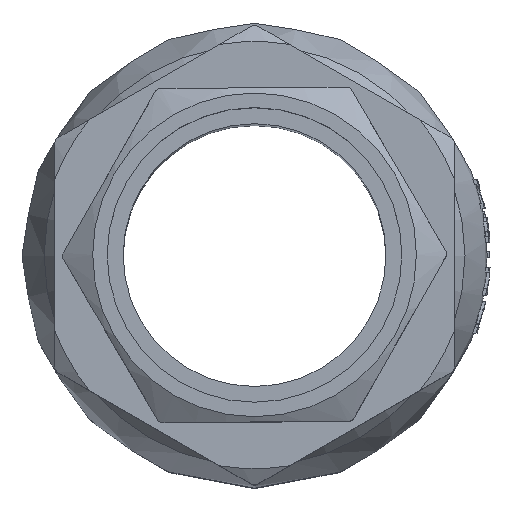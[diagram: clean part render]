
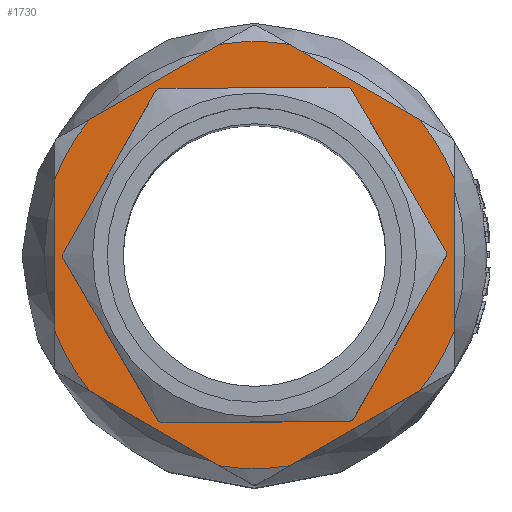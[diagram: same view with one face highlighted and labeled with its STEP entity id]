
A CAD part, top view. The second image highlights one B-rep face of the part: STEP entity #1730.
In plain terms, the highlighted planar face has unit normal (0, 0, 1).
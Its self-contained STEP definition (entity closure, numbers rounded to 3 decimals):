
#1730=ADVANCED_FACE('',(#4472,#4474),#4476,.T.);
#4472=FACE_BOUND('',#4473,.T.);
#4473=EDGE_LOOP('',(#5637,#5638,#5639,#5640,#5641,#5642,#5643,#5644,#5645,#5646,
#5647,#5648));
#4474=FACE_BOUND('',#4475,.T.);
#4475=EDGE_LOOP('',(#5649,#5650,#5651,#5652,#5653,#5654,#5655,#5656,#5657,#5658,
#5659,#5660));
#4476=PLANE('',#4477);
#4477=AXIS2_PLACEMENT_3D('',#4478,#4479,#4480);
#4478=CARTESIAN_POINT('',(0.,25.423,82.));
#4479=DIRECTION('',(0.,0.,1.));
#4480=DIRECTION('',(1.,0.,0.));
#5637=ORIENTED_EDGE('',*,*,#6226,.T.);
#5638=ORIENTED_EDGE('',*,*,#6209,.T.);
#5639=ORIENTED_EDGE('',*,*,#6215,.T.);
#5640=ORIENTED_EDGE('',*,*,#6197,.T.);
#5641=ORIENTED_EDGE('',*,*,#6204,.T.);
#5642=ORIENTED_EDGE('',*,*,#6308,.T.);
#5643=ORIENTED_EDGE('',*,*,#6184,.T.);
#5644=ORIENTED_EDGE('',*,*,#6191,.T.);
#5645=ORIENTED_EDGE('',*,*,#6240,.T.);
#5646=ORIENTED_EDGE('',*,*,#6231,.T.);
#5647=ORIENTED_EDGE('',*,*,#6237,.T.);
#5648=ORIENTED_EDGE('',*,*,#6220,.T.);
#5649=ORIENTED_EDGE('',*,*,#6277,.T.);
#5650=ORIENTED_EDGE('',*,*,#6260,.F.);
#5651=ORIENTED_EDGE('',*,*,#6258,.T.);
#5652=ORIENTED_EDGE('',*,*,#6243,.F.);
#5653=ORIENTED_EDGE('',*,*,#6309,.T.);
#5654=ORIENTED_EDGE('',*,*,#6263,.F.);
#5655=ORIENTED_EDGE('',*,*,#6266,.T.);
#5656=ORIENTED_EDGE('',*,*,#6268,.F.);
#5657=ORIENTED_EDGE('',*,*,#6270,.T.);
#5658=ORIENTED_EDGE('',*,*,#6272,.F.);
#5659=ORIENTED_EDGE('',*,*,#6274,.T.);
#5660=ORIENTED_EDGE('',*,*,#6276,.F.);
#6184=EDGE_CURVE('',#6993,#6991,#6994,.T.);
#6191=EDGE_CURVE('',#6991,#7004,#7006,.T.);
#6197=EDGE_CURVE('',#7017,#7015,#7018,.T.);
#6204=EDGE_CURVE('',#7015,#7028,#7030,.T.);
#6209=EDGE_CURVE('',#7038,#7036,#7039,.T.);
#6215=EDGE_CURVE('',#7036,#7017,#7049,.T.);
#6220=EDGE_CURVE('',#7057,#7055,#7058,.T.);
#6226=EDGE_CURVE('',#7055,#7038,#7068,.T.);
#6231=EDGE_CURVE('',#7076,#7074,#7077,.T.);
#6237=EDGE_CURVE('',#7074,#7057,#7087,.T.);
#6240=EDGE_CURVE('',#7004,#7076,#7090,.T.);
#6243=EDGE_CURVE('',#7094,#7096,#7097,.F.);
#6258=EDGE_CURVE('',#7124,#7096,#7125,.T.);
#6260=EDGE_CURVE('',#7124,#7127,#7128,.F.);
#6263=EDGE_CURVE('',#7130,#7132,#7133,.F.);
#6266=EDGE_CURVE('',#7130,#7135,#7137,.T.);
#6268=EDGE_CURVE('',#7138,#7135,#7140,.F.);
#6270=EDGE_CURVE('',#7138,#7141,#7143,.T.);
#6272=EDGE_CURVE('',#7144,#7141,#7146,.F.);
#6274=EDGE_CURVE('',#7144,#7147,#7149,.T.);
#6276=EDGE_CURVE('',#7150,#7147,#7152,.F.);
#6277=EDGE_CURVE('',#7150,#7127,#7153,.T.);
#6308=EDGE_CURVE('',#7028,#6993,#7191,.T.);
#6309=EDGE_CURVE('',#7094,#7132,#7192,.T.);
#6991=VERTEX_POINT('',#14791);
#6993=VERTEX_POINT('',#14813);
#6994=CIRCLE('',#14814,32.5);
#7004=VERTEX_POINT('',#14890);
#7006=LINE('',#14913,#14914);
#7015=VERTEX_POINT('',#15044);
#7017=VERTEX_POINT('',#15064);
#7018=LINE('',#15065,#15066);
#7028=VERTEX_POINT('',#15135);
#7030=CIRCLE('',#15155,32.5);
#7036=VERTEX_POINT('',#15282);
#7038=VERTEX_POINT('',#15305);
#7039=LINE('',#15306,#15307);
#7049=CIRCLE('',#15383,32.5);
#7055=VERTEX_POINT('',#15510);
#7057=VERTEX_POINT('',#15530);
#7058=LINE('',#15531,#15532);
#7068=CIRCLE('',#15601,32.5);
#7074=VERTEX_POINT('',#15728);
#7076=VERTEX_POINT('',#15748);
#7077=LINE('',#15749,#15750);
#7087=CIRCLE('',#15819,32.5);
#7090=CIRCLE('',#15941,32.5);
#7094=VERTEX_POINT('',#16006);
#7096=VERTEX_POINT('',#16010);
#7097=CIRCLE('',#16011,1.);
#7124=VERTEX_POINT('',#16615);
#7125=LINE('',#16616,#16617);
#7127=VERTEX_POINT('',#16622);
#7128=CIRCLE('',#16623,1.);
#7130=VERTEX_POINT('',#16630);
#7132=VERTEX_POINT('',#16634);
#7133=CIRCLE('',#16635,1.);
#7135=VERTEX_POINT('',#16642);
#7137=LINE('',#16646,#16647);
#7138=VERTEX_POINT('',#16649);
#7140=CIRCLE('',#16653,1.);
#7141=VERTEX_POINT('',#16657);
#7143=LINE('',#16661,#16662);
#7144=VERTEX_POINT('',#16664);
#7146=CIRCLE('',#16668,1.);
#7147=VERTEX_POINT('',#16672);
#7149=LINE('',#16676,#16677);
#7150=VERTEX_POINT('',#16679);
#7152=CIRCLE('',#16683,1.);
#7153=LINE('',#16687,#16688);
#7191=LINE('',#16866,#16867);
#7192=LINE('',#16869,#16870);
#14791=CARTESIAN_POINT('',(30.423,-11.432,82.));
#14813=CARTESIAN_POINT('',(25.112,-20.63,82.));
#14814=AXIS2_PLACEMENT_3D('',#14815,#14816,#14817);
#14815=CARTESIAN_POINT('',(0.,0.,82.));
#14816=DIRECTION('',(0.,0.,1.));
#14817=DIRECTION('',(0.773,-0.635,0.));
#14890=CARTESIAN_POINT('',(30.423,11.432,82.));
#14913=CARTESIAN_POINT('',(30.423,-11.432,82.));
#14914=VECTOR('',#14915,1.);
#14915=DIRECTION('',(0.,1.,0.));
#15044=CARTESIAN_POINT('',(-5.311,-32.063,82.));
#15064=CARTESIAN_POINT('',(-25.112,-20.63,82.));
#15065=CARTESIAN_POINT('',(-25.112,-20.63,82.));
#15066=VECTOR('',#15067,1.);
#15067=DIRECTION('',(0.866,-0.5,0.));
#15135=CARTESIAN_POINT('',(5.311,-32.063,82.));
#15155=AXIS2_PLACEMENT_3D('',#15156,#15157,#15158);
#15156=CARTESIAN_POINT('',(0.,0.,82.));
#15157=DIRECTION('',(0.,0.,1.));
#15158=DIRECTION('',(-0.163,-0.987,0.));
#15282=CARTESIAN_POINT('',(-30.423,-11.432,82.));
#15305=CARTESIAN_POINT('',(-30.423,11.432,82.));
#15306=CARTESIAN_POINT('',(-30.423,11.432,82.));
#15307=VECTOR('',#15308,1.);
#15308=DIRECTION('',(0.,-1.,0.));
#15383=AXIS2_PLACEMENT_3D('',#15384,#15385,#15386);
#15384=CARTESIAN_POINT('',(0.,0.,82.));
#15385=DIRECTION('',(0.,0.,1.));
#15386=DIRECTION('',(-0.936,-0.352,0.));
#15510=CARTESIAN_POINT('',(-25.112,20.63,82.));
#15530=CARTESIAN_POINT('',(-5.311,32.063,82.));
#15531=CARTESIAN_POINT('',(-5.311,32.063,82.));
#15532=VECTOR('',#15533,1.);
#15533=DIRECTION('',(-0.866,-0.5,0.));
#15601=AXIS2_PLACEMENT_3D('',#15602,#15603,#15604);
#15602=CARTESIAN_POINT('',(0.,0.,82.));
#15603=DIRECTION('',(0.,0.,1.));
#15604=DIRECTION('',(-0.773,0.635,0.));
#15728=CARTESIAN_POINT('',(5.311,32.063,82.));
#15748=CARTESIAN_POINT('',(25.112,20.63,82.));
#15749=CARTESIAN_POINT('',(25.112,20.63,82.));
#15750=VECTOR('',#15751,1.);
#15751=DIRECTION('',(-0.866,0.5,0.));
#15819=AXIS2_PLACEMENT_3D('',#15820,#15821,#15822);
#15820=CARTESIAN_POINT('',(0.,0.,82.));
#15821=DIRECTION('',(0.,0.,1.));
#15822=DIRECTION('',(0.163,0.987,0.));
#15941=AXIS2_PLACEMENT_3D('',#15942,#15943,#15944);
#15942=CARTESIAN_POINT('',(0.,0.,82.));
#15943=DIRECTION('',(0.,0.,1.));
#15944=DIRECTION('',(0.936,0.352,0.));
#16006=CARTESIAN_POINT('',(14.263,-25.332,82.));
#16010=CARTESIAN_POINT('',(15.126,-24.826,82.));
#16011=AXIS2_PLACEMENT_3D('',#16012,#16013,#16014);
#16012=CARTESIAN_POINT('',(14.256,-24.332,82.));
#16013=DIRECTION('',(0.,0.,-1.));
#16014=DIRECTION('',(0.869,-0.494,0.));
#16615=CARTESIAN_POINT('',(29.069,-0.314,82.));
#16616=CARTESIAN_POINT('',(29.069,-0.314,82.));
#16617=VECTOR('',#16618,1.);
#16618=DIRECTION('',(-0.494,-0.869,0.));
#16622=CARTESIAN_POINT('',(29.063,0.686,82.));
#16623=AXIS2_PLACEMENT_3D('',#16624,#16625,#16626);
#16624=CARTESIAN_POINT('',(28.2,0.18,82.));
#16625=DIRECTION('',(0.,0.,-1.));
#16626=DIRECTION('',(0.863,0.506,0.));
#16630=CARTESIAN_POINT('',(-14.807,-25.018,82.));
#16634=CARTESIAN_POINT('',(-13.937,-25.512,82.));
#16635=AXIS2_PLACEMENT_3D('',#16636,#16637,#16638);
#16636=CARTESIAN_POINT('',(-13.944,-24.512,82.));
#16637=DIRECTION('',(0.,0.,-1.));
#16638=DIRECTION('',(0.006,-1.,0.));
#16642=CARTESIAN_POINT('',(-29.063,-0.686,82.));
#16646=CARTESIAN_POINT('',(-14.807,-25.018,82.));
#16647=VECTOR('',#16648,1.);
#16648=DIRECTION('',(-0.506,0.863,0.));
#16649=CARTESIAN_POINT('',(-29.069,0.314,82.));
#16653=AXIS2_PLACEMENT_3D('',#16654,#16655,#16656);
#16654=CARTESIAN_POINT('',(-28.2,-0.18,82.));
#16655=DIRECTION('',(0.,0.,-1.));
#16656=DIRECTION('',(-0.863,-0.506,0.));
#16657=CARTESIAN_POINT('',(-15.126,24.826,82.));
#16661=CARTESIAN_POINT('',(-29.069,0.314,82.));
#16662=VECTOR('',#16663,1.);
#16663=DIRECTION('',(0.494,0.869,0.));
#16664=CARTESIAN_POINT('',(-14.263,25.332,82.));
#16668=AXIS2_PLACEMENT_3D('',#16669,#16670,#16671);
#16669=CARTESIAN_POINT('',(-14.256,24.332,82.));
#16670=DIRECTION('',(0.,0.,-1.));
#16671=DIRECTION('',(-0.869,0.494,0.));
#16672=CARTESIAN_POINT('',(13.937,25.512,82.));
#16676=CARTESIAN_POINT('',(-14.263,25.332,82.));
#16677=VECTOR('',#16678,1.);
#16678=DIRECTION('',(1.,0.006,0.));
#16679=CARTESIAN_POINT('',(14.807,25.018,82.));
#16683=AXIS2_PLACEMENT_3D('',#16684,#16685,#16686);
#16684=CARTESIAN_POINT('',(13.944,24.512,82.));
#16685=DIRECTION('',(0.,0.,-1.));
#16686=DIRECTION('',(-0.006,1.,0.));
#16687=CARTESIAN_POINT('',(14.807,25.018,82.));
#16688=VECTOR('',#16689,1.);
#16689=DIRECTION('',(0.506,-0.863,0.));
#16866=CARTESIAN_POINT('',(5.311,-32.063,82.));
#16867=VECTOR('',#16868,1.);
#16868=DIRECTION('',(0.866,0.5,0.));
#16869=CARTESIAN_POINT('',(14.263,-25.332,82.));
#16870=VECTOR('',#16871,1.);
#16871=DIRECTION('',(-1.,-0.006,0.));
